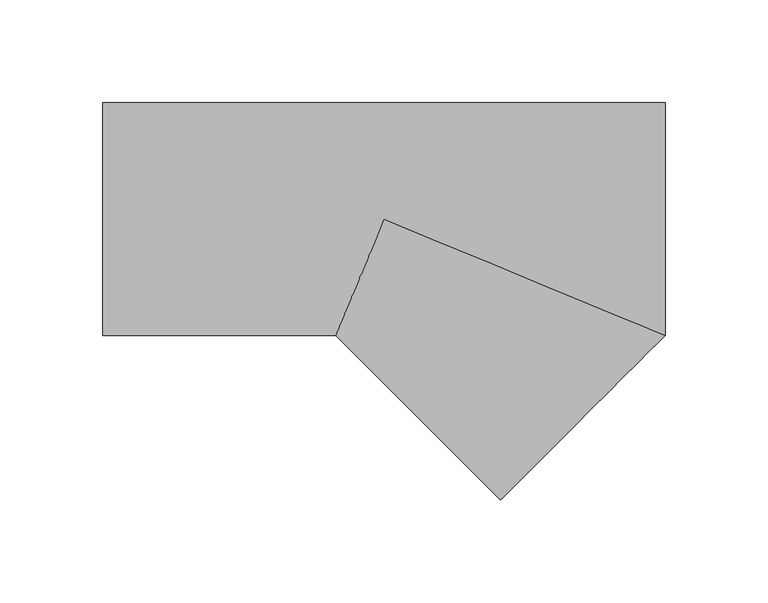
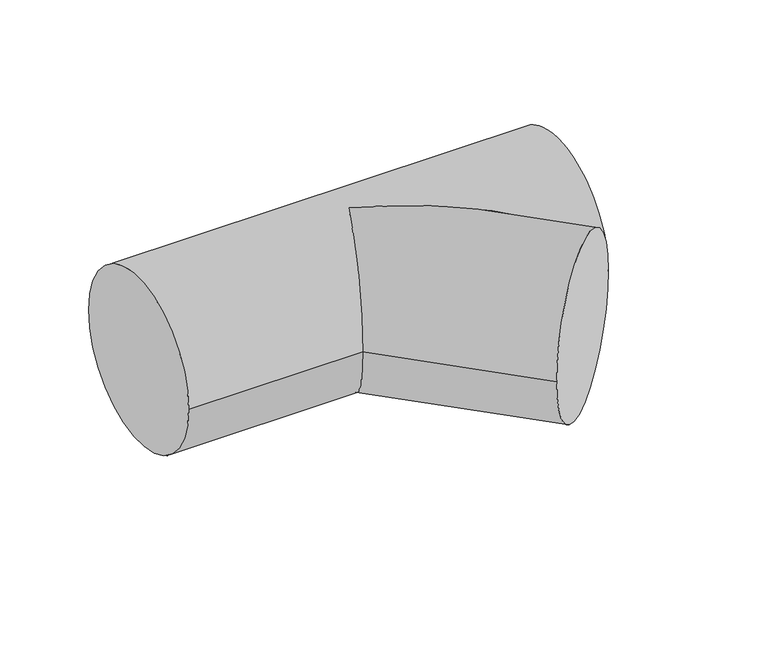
"""IFC4 building model written with IfcOpenShell, lengths in millimetres: pipe fitting geometry, M_Te - Genérica : Estándar."""

from ifc_helpers import new_model, si_unit, frame, origin, place, context, project, spatial, circle_curve, ellipse_curve, source, transform, mapped, element, save
from ifc_brep_helpers import plane_surface, cylinder_surface, advanced_brep


def pipe_fitting_02b8a132(model_context):
    return source(origin(), model_context, "Body", "AdvancedBrep", [
        advanced_brep(
        [(-136.6223124, -56.5875, 0.0), (-136.6223124, 56.5875, 0.0), (136.6223124, -56.5875, 0.0), (136.6223124, 56.5875, 0.0), (-23.437937, -56.5875, 0.0), (0.0, 0.0, 56.5875), (0.0, 0.0, -56.5875), (56.5988171, -136.6176244, 0.0)],
        [
            (0, 1, circle_curve(frame((-136.6223124, 0.0, 0.0), z_axis=(-1.0, 0.0, 0.0), x_axis=(0.0, 1.0, 0.0)), 56.5875)),
            (1, 0, circle_curve(frame((-136.6223124, 0.0, 0.0), z_axis=(-1.0, 0.0, 0.0), x_axis=(0.0, 1.0, 0.0)), 56.5875)),
            (2, 3, circle_curve(frame((136.6223124, 0.0, 0.0), z_axis=(1.0, 0.0, 0.0), x_axis=(0.0, 1.0, 0.0)), 56.5875)),
            (3, 2, circle_curve(frame((136.6223124, 0.0, 0.0), z_axis=(1.0, 0.0, 0.0), x_axis=(0.0, 1.0, 0.0)), 56.5875)),
            (0, 4),
            (4, 5, ellipse_curve(frame((0.0, 0.0, 0.0), z_axis=(-0.9238874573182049, 0.38266429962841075, 0.0), x_axis=(-0.3826642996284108, -0.9238874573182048, 0.0)), 61.2493433, 56.5875)),
            (5, 2, ellipse_curve(frame((0.0, 0.0, 0.0), z_axis=(0.38266429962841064, 0.9238874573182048, 0.0), x_axis=(-0.9238874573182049, 0.3826642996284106, 0.0)), 147.8776569, 56.5875)),
            (3, 1),
            (2, 6, ellipse_curve(frame((0.0, 0.0, 0.0), z_axis=(0.38266429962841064, 0.9238874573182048, 0.0), x_axis=(-0.9238874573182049, 0.3826642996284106, 0.0)), 147.8776569, 56.5875)),
            (6, 4, ellipse_curve(frame((0.0, 0.0, 0.0), z_axis=(-0.9238874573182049, 0.38266429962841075, 0.0), x_axis=(-0.3826642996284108, -0.9238874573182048, 0.0)), 61.2493433, 56.5875)),
            (7, 2, circle_curve(frame((96.6105647, -96.6025622, 0.0), z_axis=(0.7071360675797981, -0.7070774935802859, 0.0), x_axis=(0.7070774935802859, 0.7071360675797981, 0.0)), 56.5875)),
            (2, 7, circle_curve(frame((96.6105647, -96.6025622, 0.0), z_axis=(0.7071360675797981, -0.7070774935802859, 0.0), x_axis=(0.7070774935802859, 0.7071360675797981, 0.0)), 56.5875)),
            (4, 7),
        ],
        [
            plane_surface(frame((-136.6223124, 0.0, 0.0), z_axis=(-1.0, 0.0, 0.0), x_axis=(0.0, 0.0, 1.0))),
            plane_surface(frame((136.6223124, 0.0, 0.0), z_axis=(1.0, 0.0, 0.0), x_axis=(0.0, 0.0, 1.0))),
            cylinder_surface(frame((-136.6223124, 0.0, 0.0), z_axis=(-1.0, 0.0, 0.0), x_axis=(0.0, 1.0, 0.0)), 56.5875),
            plane_surface(frame((96.6105647, -96.6025622, 0.0), z_axis=(0.7071360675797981, -0.7070774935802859, 0.0), x_axis=(0.0, 0.0, 1.0))),
            cylinder_surface(frame((0.0, 0.0, 0.0), z_axis=(-0.7071360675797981, 0.7070774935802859, 0.0), x_axis=(0.7070774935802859, 0.7071360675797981, 0.0)), 56.5875),
        ],
        [
            (0, [[1, 2]]),
            (1, [[3, 4]]),
            (2, [[-1, 5, 6, 7, -4, 8]]),
            (2, [[-2, -8, -3, 9, 10, -5]]),
            (3, [[11, 12]]),
            (4, [[-12, -7, -6, 13]]),
            (4, [[-11, -13, -10, -9]]),
        ],
    ),
    ])


if __name__ == "__main__":
    model = new_model("IFC4")
    model_context = context("Model", 3, world=origin())
    ifc_project = project(units=[si_unit("LENGTHUNIT", "METRE", prefix="MILLI")], contexts=[model_context])
    site = spatial("IfcSite", under=ifc_project)
    building = spatial("IfcBuilding", under=site)
    placement = place(None, origin())
    pipe_fitting_shape = pipe_fitting_02b8a132(model_context)
    element("IfcPipeFitting", 1, ObjectType="M_Te - Genérica : Estándar", at=placement, inside=building, context=model_context, shape_type="MappedRepresentation", body=[
        mapped(pipe_fitting_shape, transform((0.0, 0.0, 0.0), x_axis=(1.0, 0.0, 0.0), y_axis=(0.0, 1.0, 0.0), z_axis=(0.0, 0.0, 1.0))),
    ])
    save(model, "model.ifc")
